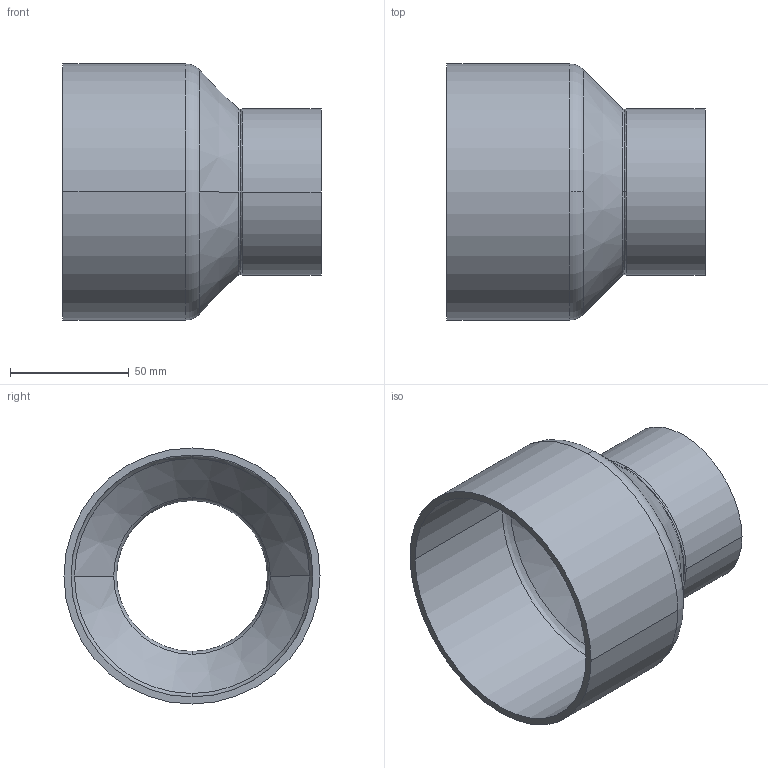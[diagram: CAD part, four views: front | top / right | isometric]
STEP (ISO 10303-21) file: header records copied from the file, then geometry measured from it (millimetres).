
FILE_DESCRIPTION((''),'2;1');
FILE_NAME('G:\Technics\CAD\Bauteile\Serie 15243\1524310864.stp','2005-10-21T12:49:54',('boden'),(''),'Autodesk Inventor 8','Autodesk Inventor 8','');
FILE_SCHEMA(('AUTOMOTIVE_DESIGN { 1 0 10303 214 1 1 1 1 }'));
Length unit declared in the file: millimetre
Products named in the file (1): 1524310864
Bounding box: 108.9 x 108 x 108 mm (x, y, z)
Volume: 97851.6 mm3; surface area: 66860.2 mm2
Topology: 1 solids, 1 shells, 26 faces, 68 edges, 44 vertices
Faces by surface type: cylinder 8, torus 6, bspline 6, cone 4, plane 2
Entity records: 1103 total; most frequent: CARTESIAN_POINT 403, DIRECTION 166, ORIENTED_EDGE 136, AXIS2_PLACEMENT_3D 77, EDGE_CURVE 68, CIRCLE 56, VERTEX_POINT 44, EDGE_LOOP 28
